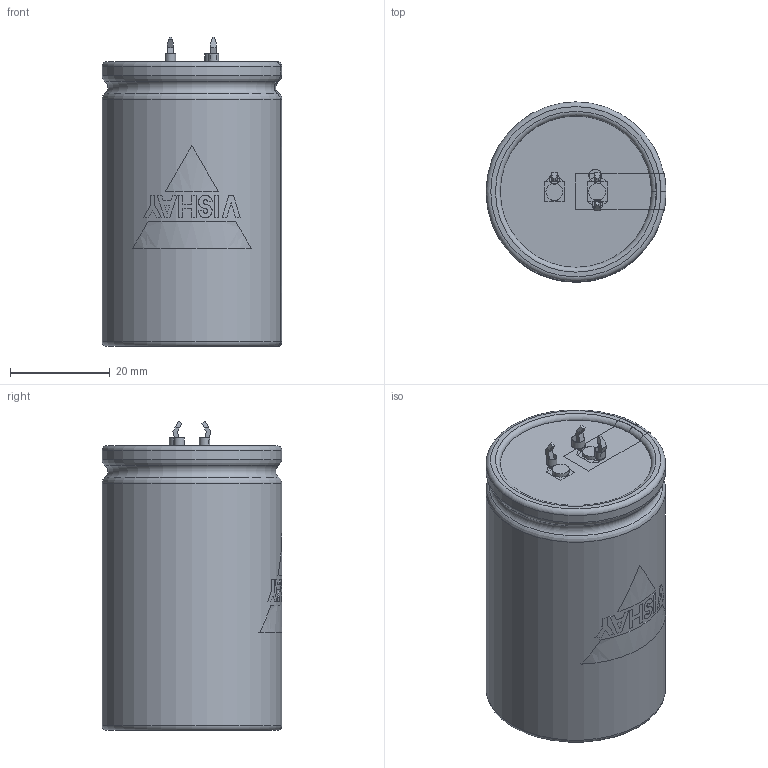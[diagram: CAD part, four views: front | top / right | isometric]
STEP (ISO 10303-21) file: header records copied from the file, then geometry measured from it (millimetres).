
FILE_DESCRIPTION(('FreeCAD Model'),'2;1');
FILE_NAME( 'C:/Users/Gebruiker/Documents/FreeCAD/SnapIn_35x55_3pin_4.0.step', '2020-11-12T21:20:38',('Author'),(''), 'Open CASCADE STEP processor 6.8','FreeCAD','Unknown');
FILE_SCHEMA(('AUTOMOTIVE_DESIGN_CC2 { 1 2 10303 214 -1 1 5 4 }'));
Length unit declared in the file: millimetre
Products named in the file (9): ASSEMBLY; TerminalMinKP; PCBHolesKP; TerminalPlus; Disc; BottomInsulation; Can3D; InkMinusBar; InkLogo
Assembly tree (8 placements, depth 2):
  ASSEMBLY
    TerminalMinKP
    PCBHolesKP
    TerminalPlus
    Disc
    BottomInsulation
    Can3D
    InkMinusBar
    InkLogo
Bounding box: 36.05 x 36.05 x 61.95 mm (x, y, z)
Volume: 65676.2 mm3; surface area: 20022.1 mm2
Topology: 17 solids, 17 shells, 213 faces, 524 edges, 342 vertices
Faces by surface type: plane 164, cylinder 31, torus 18
Full cylindrical faces by diameter (mm): 2 x2, 2.1 x2, 2.5 x1, 2.6 x1, 3.4 x2, 28.8 x2, 30.3 x1, 36 x2
Entity records: 21685 total; most frequent: CARTESIAN_POINT 10002, DIRECTION 1807, ORIENTED_EDGE 1048, PCURVE 1048, DEFINITIONAL_REPRESENTATION 1048, LINE 1013, VECTOR 1013, EDGE_CURVE 524
